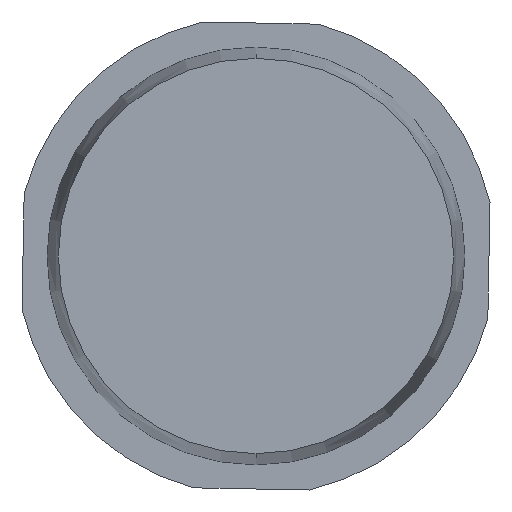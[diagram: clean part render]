
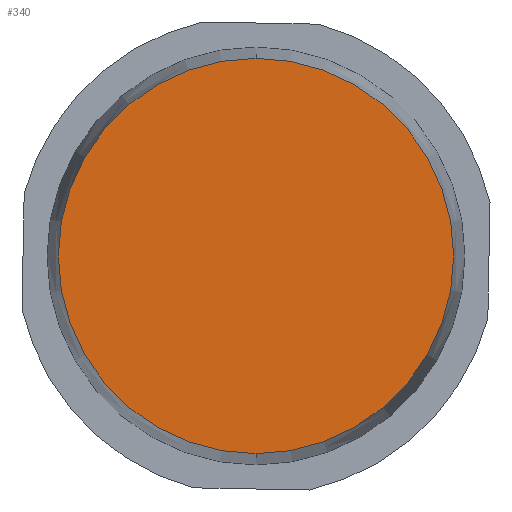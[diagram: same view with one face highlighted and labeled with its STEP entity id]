
A CAD part, front view. The second image highlights one B-rep face of the part: STEP entity #340.
In plain terms, the highlighted planar face has unit normal (0, -1, 0).
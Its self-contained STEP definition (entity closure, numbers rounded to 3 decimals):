
#38 = CARTESIAN_POINT ( 'NONE',  ( 0., 0., -14. ) ) ;
#68 = ORIENTED_EDGE ( 'NONE', *, *, #538, .T. ) ;
#93 = PLANE ( 'NONE',  #265 ) ;
#155 = DIRECTION ( 'NONE',  ( 0., -1., 0. ) ) ;
#211 = CARTESIAN_POINT ( 'NONE',  ( 0., 0., 14. ) ) ;
#214 = DIRECTION ( 'NONE',  ( 0., 0., -1. ) ) ;
#265 = AXIS2_PLACEMENT_3D ( 'NONE', #548, #756, #685 ) ;
#306 = EDGE_LOOP ( 'NONE', ( #68, #607 ) ) ;
#340 = ADVANCED_FACE ( 'NONE', ( #448 ), #93, .F. ) ;
#360 = DIRECTION ( 'NONE',  ( 0., -1., 0. ) ) ;
#365 = VERTEX_POINT ( 'NONE', #38 ) ;
#448 = FACE_OUTER_BOUND ( 'NONE', #306, .T. ) ;
#484 = CARTESIAN_POINT ( 'NONE',  ( 0., 0., 0. ) ) ;
#486 = CIRCLE ( 'NONE', #667, 14. ) ;
#526 = EDGE_CURVE ( 'NONE', #365, #527, #720, .T. ) ;
#527 = VERTEX_POINT ( 'NONE', #211 ) ;
#538 = EDGE_CURVE ( 'NONE', #527, #365, #486, .T. ) ;
#548 = CARTESIAN_POINT ( 'NONE',  ( 0., 0., 0. ) ) ;
#596 = CARTESIAN_POINT ( 'NONE',  ( 0., 0., 0. ) ) ;
#607 = ORIENTED_EDGE ( 'NONE', *, *, #526, .T. ) ;
#658 = AXIS2_PLACEMENT_3D ( 'NONE', #484, #360, #733 ) ;
#667 = AXIS2_PLACEMENT_3D ( 'NONE', #596, #155, #214 ) ;
#685 = DIRECTION ( 'NONE',  ( 0., 0., 1. ) ) ;
#720 = CIRCLE ( 'NONE', #658, 14. ) ;
#733 = DIRECTION ( 'NONE',  ( 0., 0., -1. ) ) ;
#756 = DIRECTION ( 'NONE',  ( 0., 1., 0. ) ) ;
